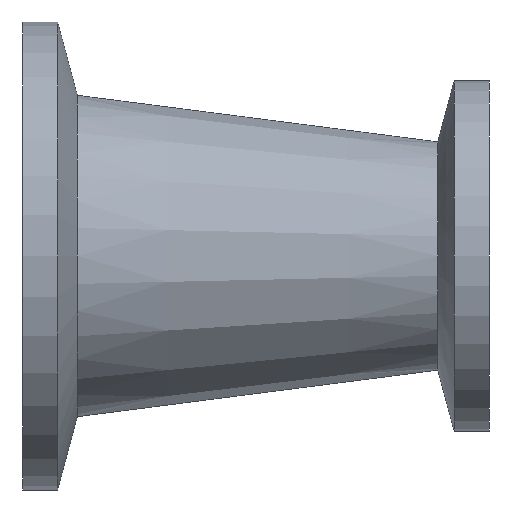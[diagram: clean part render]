
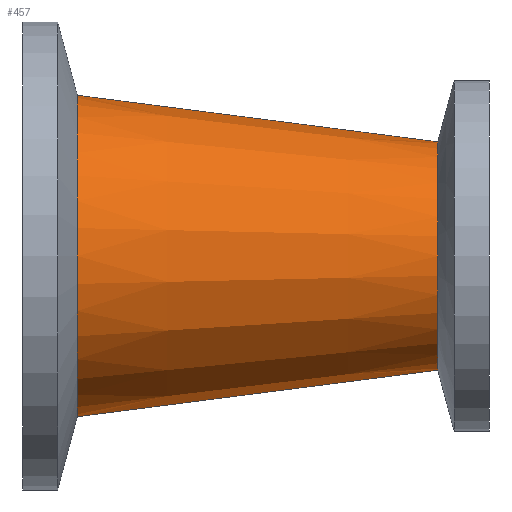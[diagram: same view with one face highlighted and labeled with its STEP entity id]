
A CAD part, front view. The second image highlights one B-rep face of the part: STEP entity #457.
In plain terms, the highlighted conical face has half-angle 7.347 degrees and reference radius 9.758 mm.
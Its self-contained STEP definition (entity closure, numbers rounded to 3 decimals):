
#1 = VECTOR ( 'NONE', #275, 1000. ) ;
#5 = CARTESIAN_POINT ( 'NONE',  ( 35.495, 0., 9.758 ) ) ;
#17 = VERTEX_POINT ( 'NONE', #5 ) ;
#26 = CARTESIAN_POINT ( 'NONE',  ( 35.495, 0., 0. ) ) ;
#32 = AXIS2_PLACEMENT_3D ( 'NONE', #26, #301, #493 ) ;
#35 = DIRECTION ( 'NONE',  ( -1., 0., 0. ) ) ;
#39 = VECTOR ( 'NONE', #240, 1000. ) ;
#43 = EDGE_CURVE ( 'NONE', #497, #175, #138, .T. ) ;
#48 = AXIS2_PLACEMENT_3D ( 'NONE', #565, #531, #291 ) ;
#51 = CARTESIAN_POINT ( 'NONE',  ( 35.495, 0., 9.758 ) ) ;
#136 = AXIS2_PLACEMENT_3D ( 'NONE', #592, #35, #413 ) ;
#138 = LINE ( 'NONE', #370, #1 ) ;
#148 = EDGE_CURVE ( 'NONE', #17, #160, #568, .T. ) ;
#160 = VERTEX_POINT ( 'NONE', #288 ) ;
#173 = EDGE_LOOP ( 'NONE', ( #604, #591, #459, #448 ) ) ;
#175 = VERTEX_POINT ( 'NONE', #397 ) ;
#180 = EDGE_CURVE ( 'NONE', #497, #17, #214, .T. ) ;
#214 = CIRCLE ( 'NONE', #32, 9.758 ) ;
#240 = DIRECTION ( 'NONE',  ( -0.992, 0., 0.128 ) ) ;
#251 = EDGE_CURVE ( 'NONE', #175, #160, #312, .T. ) ;
#275 = DIRECTION ( 'NONE',  ( -0.992, 0., -0.128 ) ) ;
#288 = CARTESIAN_POINT ( 'NONE',  ( 4.68, 0., 13.731 ) ) ;
#291 = DIRECTION ( 'NONE',  ( 0., 0., 1. ) ) ;
#301 = DIRECTION ( 'NONE',  ( -1., 0., 0. ) ) ;
#312 = CIRCLE ( 'NONE', #48, 13.731 ) ;
#317 = FACE_OUTER_BOUND ( 'NONE', #173, .T. ) ;
#370 = CARTESIAN_POINT ( 'NONE',  ( 35.495, 0., -9.758 ) ) ;
#372 = CARTESIAN_POINT ( 'NONE',  ( 35.495, 0., -9.758 ) ) ;
#393 = CONICAL_SURFACE ( 'NONE', #136, 9.758, 0.128 ) ;
#397 = CARTESIAN_POINT ( 'NONE',  ( 4.68, 0., -13.731 ) ) ;
#413 = DIRECTION ( 'NONE',  ( 0., 0., 1. ) ) ;
#448 = ORIENTED_EDGE ( 'NONE', *, *, #251, .F. ) ;
#457 = ADVANCED_FACE ( 'NONE', ( #317 ), #393, .T. ) ;
#459 = ORIENTED_EDGE ( 'NONE', *, *, #148, .T. ) ;
#493 = DIRECTION ( 'NONE',  ( 0., 0., 1. ) ) ;
#497 = VERTEX_POINT ( 'NONE', #372 ) ;
#531 = DIRECTION ( 'NONE',  ( -1., 0., 0. ) ) ;
#565 = CARTESIAN_POINT ( 'NONE',  ( 4.68, 0., 0. ) ) ;
#568 = LINE ( 'NONE', #51, #39 ) ;
#591 = ORIENTED_EDGE ( 'NONE', *, *, #180, .T. ) ;
#592 = CARTESIAN_POINT ( 'NONE',  ( 35.495, 0., 0. ) ) ;
#604 = ORIENTED_EDGE ( 'NONE', *, *, #43, .F. ) ;
